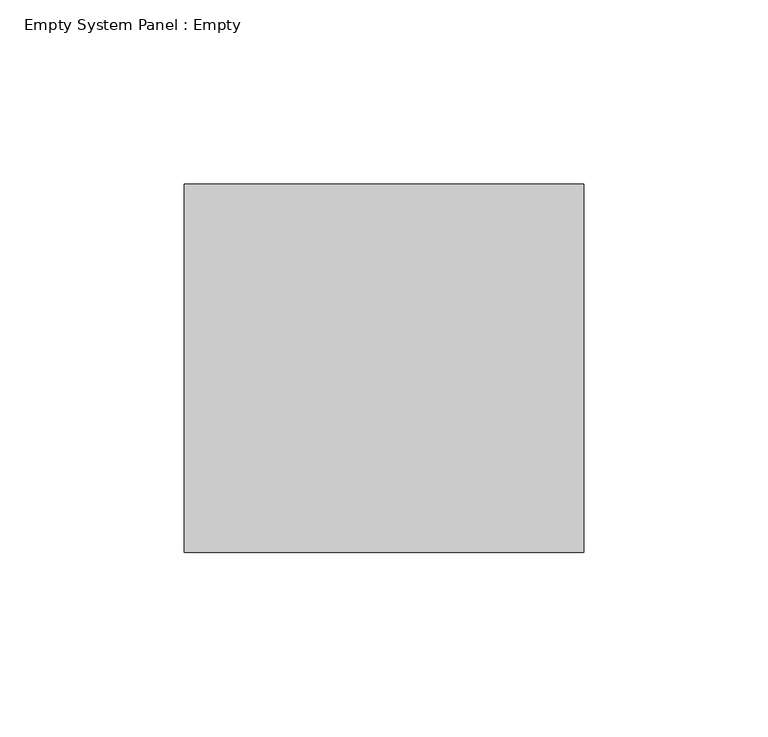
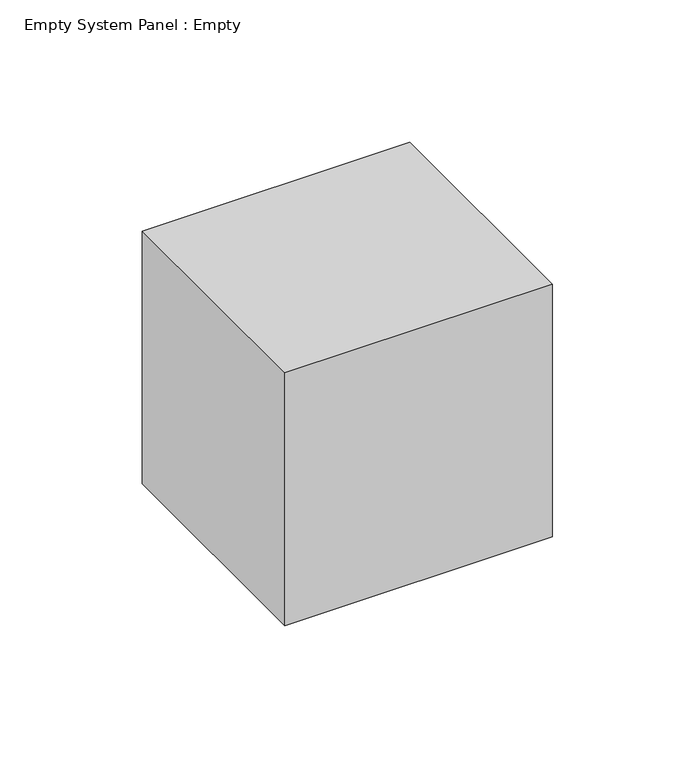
"""IFC4 building model written with IfcOpenShell, lengths in millimetres: plate geometry, Empty System Panel : Empty."""

from ifc_helpers import new_model, si_unit, origin, origin_with_axes, place, context, project, spatial, polyline, outline, extrude, source, transform, mapped, element, save


def empty_system_panel_empty_a9be3bbe(model_context):
    return source(origin(), model_context, "Body", "SweptSolid", [
        extrude(outline(polyline([(54.1878048, 50.0), (-54.1878048, 50.0), (-54.1878048, 150.0), (54.1878048, 150.0), (54.1878048, 50.0)])), origin_with_axes(), (0.0, 0.0, 1.0), 108.37561),
    ])


if __name__ == "__main__":
    model = new_model("IFC4")
    model_context = context("Model", 3, world=origin())
    ifc_project = project(units=[si_unit("LENGTHUNIT", "METRE", prefix="MILLI")], contexts=[model_context])
    site = spatial("IfcSite", under=ifc_project)
    building = spatial("IfcBuilding", under=site)
    placement = place(None, origin())
    empty_system_panel_empty_shape = empty_system_panel_empty_a9be3bbe(model_context)
    element("IfcPlate", 1, ObjectType="Empty System Panel : Empty", at=placement, inside=building, context=model_context, shape_type="MappedRepresentation", body=[
        mapped(empty_system_panel_empty_shape, transform((0.0, 0.0, 0.0), x_axis=(1.0, 0.0, 0.0), y_axis=(0.0, 1.0, 0.0), z_axis=(0.0, 0.0, 1.0))),
    ])
    save(model, "model.ifc")
